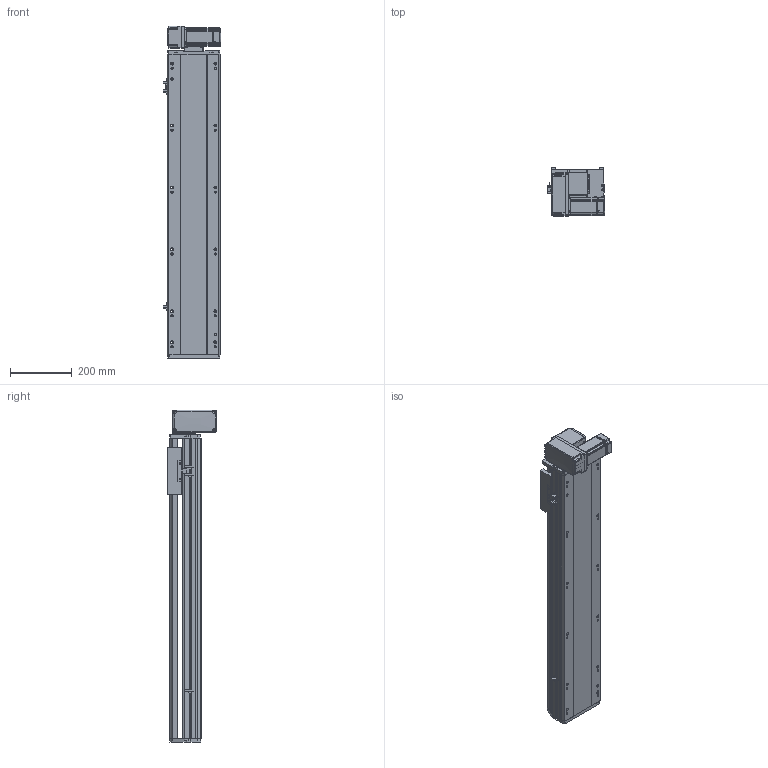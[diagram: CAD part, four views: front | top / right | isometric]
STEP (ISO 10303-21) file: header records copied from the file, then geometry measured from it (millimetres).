
FILE_DESCRIPTION (( 'STEP AP214' ), '1' );
FILE_NAME ('RTB17S-XX-700-LM-M40-C4.STEP', '2025-12-11T06:24:25', ( '' ), ( '' ), 'SwSTEP 2.0', 'SolidWorks 2018', '' );
FILE_SCHEMA (( 'AUTOMOTIVE_DESIGN' ));
Length unit declared in the file: millimetre
Products named in the file (14): RTB14-L-017P^RTB17S-LM-々湍釱蚾饜-400W_RTB17S-XX-XX-LM-M40-C4; RMP17S-L-014-T20--々湍釱^RTB17S-LM-々湍釱蚾饜-400W_RTB17S-XX-XX-LM-M40-C4; RTB17S-LM-々湍釱蚾饜-400W^RTB17S-XX-XX-LM-M40-C4; RTB17S-L-001耜醱啣^RTB17S-XX-XX-LM-M40-C4; RTB17S-L-004佪裝蹟譫蟀諉釱^RTB17S-XX-XX-LM-M40-C4; RTB14-L-008-M20--萇儂啣^RTB17S-LM-々湍釱蚾饜-400W_RTB17S-XX-XX-LM-M40-C4; 400W侜督萇儂^RTB17S-XX-XX-LM-M40-C4; RTH13-BL-012覜茼え俋离^RTB17S-XX-XX-LM-M40-C4; RTB14-L-018P^RTB17S-LM-々湍釱蚾饜-400W_RTB17S-XX-XX-LM-M40-C4; OMRON EE-SX672 传感器^RTB17S-XX-XX-LM-M40-C4; RTB17S-XX-700-LM-M40-C4; RTB17S-L-007奻裔^RTB17S-XX-XX-LM-M40-C4; RTB17-R-011菁釱^RTB17S-XX-XX-LM-M40-C4; RTB14-L-005P--轴承塑胶压盖^RTB17S-LM-皮带座装配-400W_RTB17S-XX-XX-LM-M40-C4
Assembly tree (16 placements, depth 3):
  RTB17S-XX-700-LM-M40-C4
    RTB17-R-011菁釱^RTB17S-XX-XX-LM-M40-C4
    RTB17S-L-007奻裔^RTB17S-XX-XX-LM-M40-C4
    OMRON EE-SX672 传感器^RTB17S-XX-XX-LM-M40-C4  x3
    RTH13-BL-012覜茼え俋离^RTB17S-XX-XX-LM-M40-C4
    RTB17S-L-001耜醱啣^RTB17S-XX-XX-LM-M40-C4
    400W侜督萇儂^RTB17S-XX-XX-LM-M40-C4
    RTB17S-L-004佪裝蹟譫蟀諉釱^RTB17S-XX-XX-LM-M40-C4
    RTB17S-LM-々湍釱蚾饜-400W^RTB17S-XX-XX-LM-M40-C4
      RMP17S-L-014-T20--々湍釱^RTB17S-LM-々湍釱蚾饜-400W_RTB17S-XX-XX-LM-M40-C4
      RTB14-L-005P--轴承塑胶压盖^RTB17S-LM-皮带座装配-400W_RTB17S-XX-XX-LM-M40-C4
      RTB14-L-008-M20--萇儂啣^RTB17S-LM-々湍釱蚾饜-400W_RTB17S-XX-XX-LM-M40-C4
      RTB14-L-017P^RTB17S-LM-々湍釱蚾饜-400W_RTB17S-XX-XX-LM-M40-C4  x2
      RTB14-L-018P^RTB17S-LM-々湍釱蚾饜-400W_RTB17S-XX-XX-LM-M40-C4
Bounding box: 186 x 156.5 x 1072.5 mm (x, y, z)
Volume: 9925274.2 mm3; surface area: 1232176.7 mm2
Topology: 15 solids, 15 shells, 2189 faces, 6033 edges, 3933 vertices
Faces by surface type: plane 1066, cylinder 675, bspline 301, cone 139, torus 8
Entity records: 61865 total; most frequent: CARTESIAN_POINT 17238, ORIENTED_EDGE 8910, DIRECTION 8306, EDGE_CURVE 4455, VERTEX_POINT 2921, AXIS2_PLACEMENT_3D 2851, VECTOR 2604, LINE 2604
